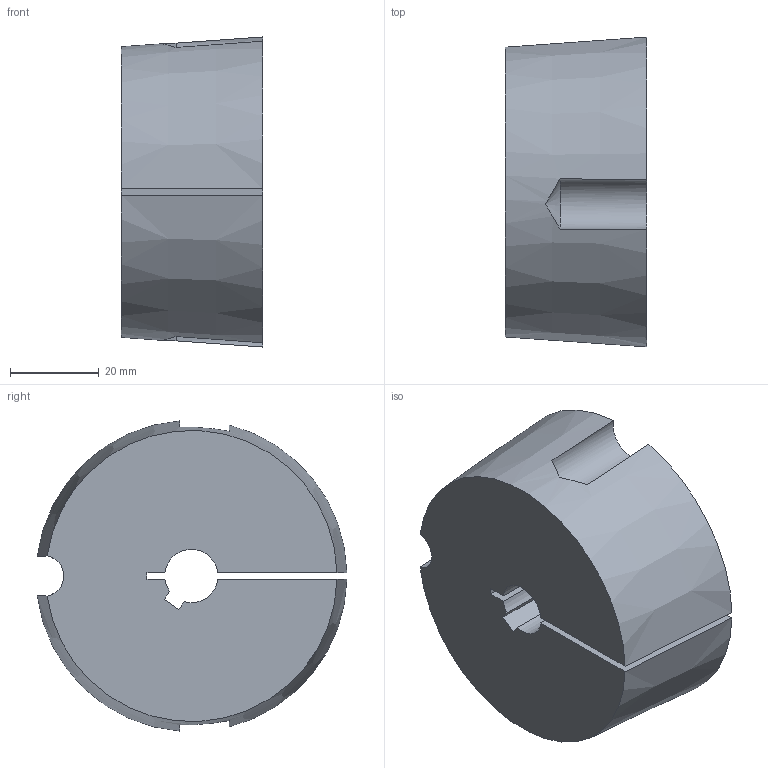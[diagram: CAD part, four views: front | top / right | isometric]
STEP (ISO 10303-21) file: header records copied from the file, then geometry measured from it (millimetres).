
FILE_DESCRIPTION( ( 'STEP AP203' ), '1' );
FILE_NAME( 'D:/export/antriebselemente/spannbuchsen_und_spannsaetze/taper-spannbuchsen_1008_bis_5050/taper-spannbuchsen_62250512Isometric_108.stp', '2018-12-11T11:11:11', ( '' ), ( '' ), ' ', 'PARTsolutions', ' ' );
FILE_SCHEMA( ( 'CONFIG_CONTROL_DESIGN' ) );
Length unit declared in the file: millimetre
Products named in the file (1): _taper-spannbuchsen_62250512
Bounding box: 31.8 x 69.72 x 69.81 mm (x, y, z)
Volume: 105813.8 mm3; surface area: 17280.7 mm2
Topology: 1 solids, 1 shells, 20 faces, 54 edges, 36 vertices
Faces by surface type: plane 10, cylinder 6, cone 4
Entity records: 752 total; most frequent: CARTESIAN_POINT 203, ORIENTED_EDGE 108, DIRECTION 104, EDGE_CURVE 54, AXIS2_PLACEMENT_3D 39, VERTEX_POINT 36, LINE 26, VECTOR 26
